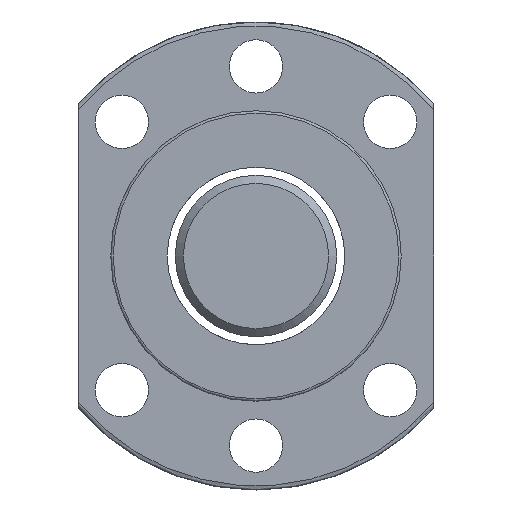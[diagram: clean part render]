
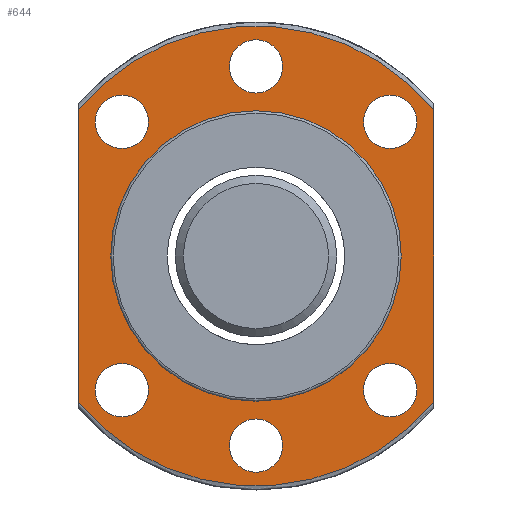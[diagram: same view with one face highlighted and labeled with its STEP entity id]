
A CAD part, left-side view. The second image highlights one B-rep face of the part: STEP entity #644.
In plain terms, the highlighted planar face has unit normal (-1, 0, 0).
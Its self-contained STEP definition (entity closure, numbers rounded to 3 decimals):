
#84=LINE('',#1065,#94);
#86=LINE('',#1098,#96);
#94=VECTOR('',#839,1000.);
#96=VECTOR('',#843,1000.);
#124=PLANE('',#743);
#193=ORIENTED_EDGE('',*,*,#331,.F.);
#194=ORIENTED_EDGE('',*,*,#305,.T.);
#195=ORIENTED_EDGE('',*,*,#332,.F.);
#196=ORIENTED_EDGE('',*,*,#312,.F.);
#197=ORIENTED_EDGE('',*,*,#315,.T.);
#198=ORIENTED_EDGE('',*,*,#317,.T.);
#199=ORIENTED_EDGE('',*,*,#319,.T.);
#200=ORIENTED_EDGE('',*,*,#321,.T.);
#201=ORIENTED_EDGE('',*,*,#323,.T.);
#202=ORIENTED_EDGE('',*,*,#325,.T.);
#203=ORIENTED_EDGE('',*,*,#328,.T.);
#305=EDGE_CURVE('',#379,#378,#84,.T.);
#312=EDGE_CURVE('',#383,#384,#86,.T.);
#315=EDGE_CURVE('',#386,#386,#425,.T.);
#317=EDGE_CURVE('',#388,#388,#427,.T.);
#319=EDGE_CURVE('',#390,#390,#429,.T.);
#321=EDGE_CURVE('',#392,#392,#431,.T.);
#323=EDGE_CURVE('',#394,#394,#433,.T.);
#325=EDGE_CURVE('',#396,#396,#435,.T.);
#328=EDGE_CURVE('',#399,#399,#438,.T.);
#331=EDGE_CURVE('',#379,#383,#440,.T.);
#332=EDGE_CURVE('',#384,#378,#441,.T.);
#378=VERTEX_POINT('',#1064);
#379=VERTEX_POINT('',#1066);
#383=VERTEX_POINT('',#1097);
#384=VERTEX_POINT('',#1099);
#386=VERTEX_POINT('',#1109);
#388=VERTEX_POINT('',#1114);
#390=VERTEX_POINT('',#1119);
#392=VERTEX_POINT('',#1124);
#394=VERTEX_POINT('',#1129);
#396=VERTEX_POINT('',#1134);
#399=VERTEX_POINT('',#1142);
#425=CIRCLE('',#720,3.3);
#427=CIRCLE('',#723,3.3);
#429=CIRCLE('',#726,3.3);
#431=CIRCLE('',#729,3.3);
#433=CIRCLE('',#732,3.3);
#435=CIRCLE('',#735,3.3);
#438=CIRCLE('',#740,18.);
#440=CIRCLE('',#744,28.5);
#441=CIRCLE('',#745,28.5);
#491=EDGE_LOOP('',(#193,#194,#195,#196));
#492=EDGE_LOOP('',(#197));
#493=EDGE_LOOP('',(#198));
#494=EDGE_LOOP('',(#199));
#495=EDGE_LOOP('',(#200));
#496=EDGE_LOOP('',(#201));
#497=EDGE_LOOP('',(#202));
#498=EDGE_LOOP('',(#203));
#574=FACE_BOUND('',#491,.T.);
#575=FACE_BOUND('',#492,.T.);
#576=FACE_BOUND('',#493,.T.);
#577=FACE_BOUND('',#494,.T.);
#578=FACE_BOUND('',#495,.T.);
#579=FACE_BOUND('',#496,.T.);
#580=FACE_BOUND('',#497,.T.);
#581=FACE_BOUND('',#498,.T.);
#644=ADVANCED_FACE('',(#574,#575,#576,#577,#578,#579,#580,#581),#124,.F.);
#720=AXIS2_PLACEMENT_3D('',#1108,#847,#848);
#723=AXIS2_PLACEMENT_3D('',#1113,#853,#854);
#726=AXIS2_PLACEMENT_3D('',#1118,#859,#860);
#729=AXIS2_PLACEMENT_3D('',#1123,#865,#866);
#732=AXIS2_PLACEMENT_3D('',#1128,#871,#872);
#735=AXIS2_PLACEMENT_3D('',#1133,#877,#878);
#740=AXIS2_PLACEMENT_3D('',#1141,#887,#888);
#743=AXIS2_PLACEMENT_3D('',#1153,#893,#894);
#744=AXIS2_PLACEMENT_3D('',#1154,#895,#896);
#745=AXIS2_PLACEMENT_3D('',#1155,#897,#898);
#839=DIRECTION('',(0.,0.,-1.));
#843=DIRECTION('',(0.,0.,-1.));
#847=DIRECTION('',(1.,0.,0.));
#848=DIRECTION('',(0.,1.,0.));
#853=DIRECTION('',(1.,0.,0.));
#854=DIRECTION('',(0.,1.,0.));
#859=DIRECTION('',(1.,0.,0.));
#860=DIRECTION('',(0.,1.,0.));
#865=DIRECTION('',(1.,0.,0.));
#866=DIRECTION('',(0.,1.,0.));
#871=DIRECTION('',(1.,0.,0.));
#872=DIRECTION('',(0.,1.,0.));
#877=DIRECTION('',(1.,0.,0.));
#878=DIRECTION('',(0.,1.,0.));
#887=DIRECTION('',(1.,0.,0.));
#888=DIRECTION('',(0.,1.,0.));
#893=DIRECTION('',(1.,0.,0.));
#894=DIRECTION('',(0.,1.,0.));
#895=DIRECTION('',(1.,0.,0.));
#896=DIRECTION('',(0.,1.,0.));
#897=DIRECTION('',(1.,0.,0.));
#898=DIRECTION('',(0.,1.,0.));
#1064=CARTESIAN_POINT('',(-25.,22.,-18.118));
#1065=CARTESIAN_POINT('',(-25.,22.,0.));
#1066=CARTESIAN_POINT('',(-25.,22.,18.118));
#1097=CARTESIAN_POINT('',(-25.,-22.,18.118));
#1098=CARTESIAN_POINT('',(-25.,-22.,0.));
#1099=CARTESIAN_POINT('',(-25.,-22.,-18.118));
#1108=CARTESIAN_POINT('',(-25.,0.,-23.5));
#1109=CARTESIAN_POINT('',(-25.,3.3,-23.5));
#1113=CARTESIAN_POINT('',(-25.,0.,23.5));
#1114=CARTESIAN_POINT('',(-25.,3.3,23.5));
#1118=CARTESIAN_POINT('',(-25.,16.617,-16.617));
#1119=CARTESIAN_POINT('',(-25.,19.917,-16.617));
#1123=CARTESIAN_POINT('',(-25.,-16.617,-16.617));
#1124=CARTESIAN_POINT('',(-25.,-13.317,-16.617));
#1128=CARTESIAN_POINT('',(-25.,-16.617,16.617));
#1129=CARTESIAN_POINT('',(-25.,-13.317,16.617));
#1133=CARTESIAN_POINT('',(-25.,16.617,16.617));
#1134=CARTESIAN_POINT('',(-25.,19.917,16.617));
#1141=CARTESIAN_POINT('',(-25.,0.,0.));
#1142=CARTESIAN_POINT('',(-25.,18.,0.));
#1153=CARTESIAN_POINT('',(-25.,23.25,0.));
#1154=CARTESIAN_POINT('',(-25.,0.,0.));
#1155=CARTESIAN_POINT('',(-25.,0.,0.));
